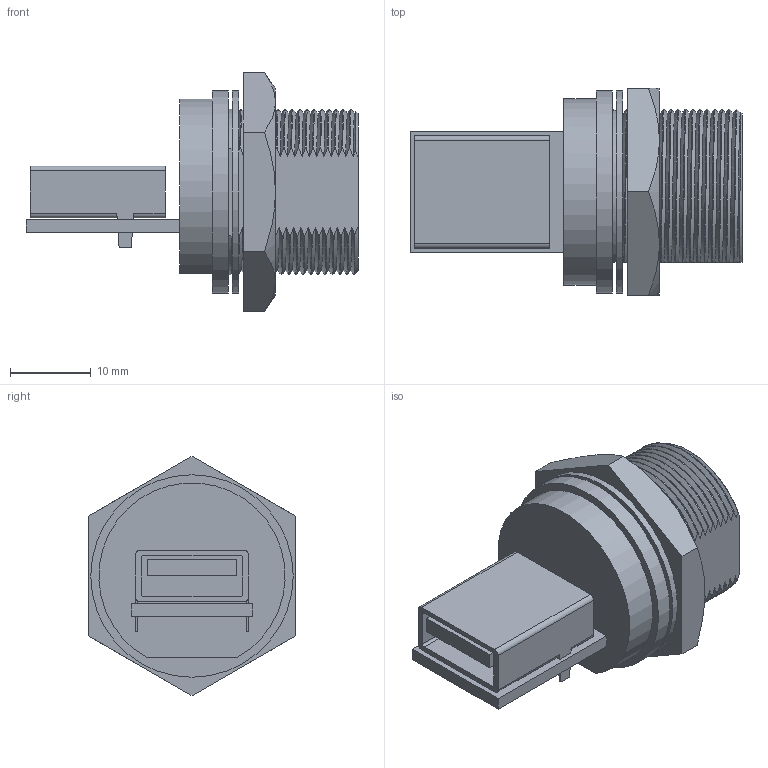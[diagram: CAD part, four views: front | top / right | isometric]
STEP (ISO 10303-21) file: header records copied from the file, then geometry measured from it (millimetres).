
FILE_DESCRIPTION(/* description */ (''),/* implementation_level */ '2;1');
FILE_NAME(/* name */ 'USB3AC-P3CSJ.stp',/* time_stamp */ '2026-04-08T16:58:14+09:00',/* author */ ('CS-05'),/* organization */ (''),/* preprocessor_version */ 'ST-DEVELOPER v19.2',/* originating_system */ 'Autodesk Inventor 2023',/* authorisation */ '');
FILE_SCHEMA (('AUTOMOTIVE_DESIGN { 1 0 10303 214 3 1 1 }'));
Length unit declared in the file: millimetre
Products named in the file (4): TB-013_USB3AC-P3CSJ_SD; TB-013_USB3AC-P3CSJ_SD1; TB-013_USB3AC-P3CSJ_SD2; TB-013_USB3AC-P3CSJ_SD3
Assembly tree (3 placements, depth 2):
  TB-013_USB3AC-P3CSJ_SD
    TB-013_USB3AC-P3CSJ_SD1
    TB-013_USB3AC-P3CSJ_SD2
    TB-013_USB3AC-P3CSJ_SD3
Bounding box: 41 x 25.6 x 29.56 mm (x, y, z)
Volume: 9687.6 mm3; surface area: 7003.1 mm2
Topology: 3 solids, 3 shells, 150 faces, 396 edges, 262 vertices
Faces by surface type: plane 69, cylinder 38, bspline 36, cone 7
Full cylindrical faces by diameter (mm): 20.45 x2, 25 x2
Entity records: 7652 total; most frequent: CARTESIAN_POINT 4103, ORIENTED_EDGE 792, DIRECTION 555, EDGE_CURVE 396, VERTEX_POINT 262, LINE 203, VECTOR 203, AXIS2_PLACEMENT_3D 176
